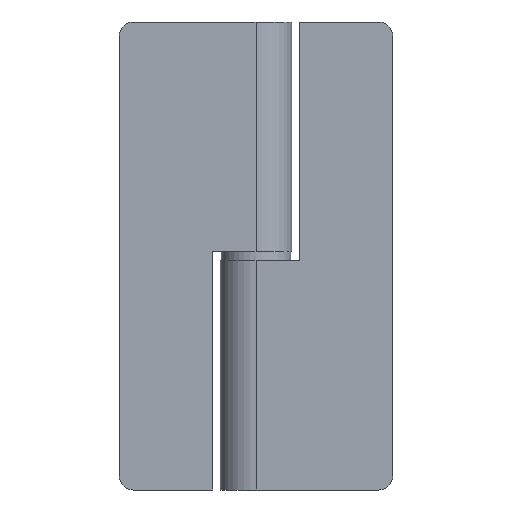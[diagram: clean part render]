
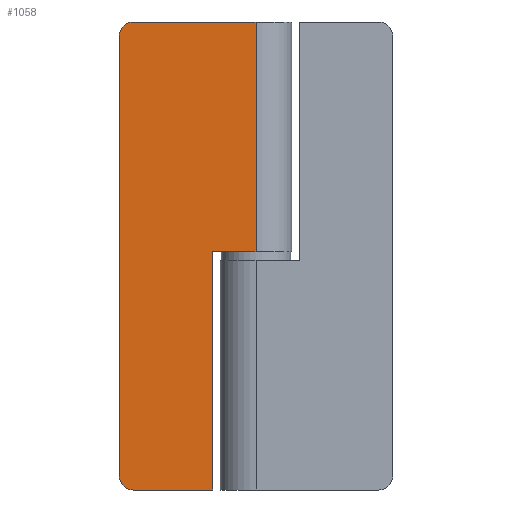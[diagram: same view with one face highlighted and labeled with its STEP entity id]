
A CAD part, front view. The second image highlights one B-rep face of the part: STEP entity #1058.
In plain terms, the highlighted planar face has unit normal (0, -1, 0).
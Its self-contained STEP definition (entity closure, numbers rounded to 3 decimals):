
#56 = CARTESIAN_POINT ( 'NONE',  ( -19., -5., -30.5 ) ) ;
#65 = VERTEX_POINT ( 'NONE', #347 ) ;
#107 = ORIENTED_EDGE ( 'NONE', *, *, #1022, .T. ) ;
#110 = VERTEX_POINT ( 'NONE', #857 ) ;
#120 = DIRECTION ( 'NONE',  ( 1., 0., 0. ) ) ;
#134 = CARTESIAN_POINT ( 'NONE',  ( -19., -5., 32.5 ) ) ;
#141 = CARTESIAN_POINT ( 'NONE',  ( -17., -5., 32.5 ) ) ;
#143 = DIRECTION ( 'NONE',  ( 0., 0., 1. ) ) ;
#146 = CARTESIAN_POINT ( 'NONE',  ( -17., -5., 30.5 ) ) ;
#148 = DIRECTION ( 'NONE',  ( 0., 1., 0. ) ) ;
#150 = DIRECTION ( 'NONE',  ( 0., 0., 1. ) ) ;
#152 = CARTESIAN_POINT ( 'NONE',  ( 0., -5., 32.5 ) ) ;
#156 = ORIENTED_EDGE ( 'NONE', *, *, #1031, .T. ) ;
#165 = CARTESIAN_POINT ( 'NONE',  ( 0., -5., 32.5 ) ) ;
#171 = PLANE ( 'NONE',  #1161 ) ;
#177 = ORIENTED_EDGE ( 'NONE', *, *, #1190, .F. ) ;
#200 = DIRECTION ( 'NONE',  ( -1., 0., 0. ) ) ;
#209 = CARTESIAN_POINT ( 'NONE',  ( -17., -5., -32.5 ) ) ;
#210 = ORIENTED_EDGE ( 'NONE', *, *, #1129, .F. ) ;
#212 = DIRECTION ( 'NONE',  ( 0., 0., 1. ) ) ;
#215 = CARTESIAN_POINT ( 'NONE',  ( -6., -5., -32.5 ) ) ;
#229 = DIRECTION ( 'NONE',  ( 1., 0., 0. ) ) ;
#233 = DIRECTION ( 'NONE',  ( 0., 1., 0. ) ) ;
#242 = ORIENTED_EDGE ( 'NONE', *, *, #1134, .F. ) ;
#260 = DIRECTION ( 'NONE',  ( 0., 1., 0. ) ) ;
#266 = CARTESIAN_POINT ( 'NONE',  ( 0., -5., -32.5 ) ) ;
#274 = CIRCLE ( 'NONE', #1132, 2. ) ;
#283 = VERTEX_POINT ( 'NONE', #209 ) ;
#289 = ORIENTED_EDGE ( 'NONE', *, *, #1107, .F. ) ;
#347 = CARTESIAN_POINT ( 'NONE',  ( 0., -5., 0.6 ) ) ;
#350 = ORIENTED_EDGE ( 'NONE', *, *, #999, .F. ) ;
#358 = CARTESIAN_POINT ( 'NONE',  ( -6., -5., -32.5 ) ) ;
#380 = DIRECTION ( 'NONE',  ( 0., 0., -1. ) ) ;
#382 = ORIENTED_EDGE ( 'NONE', *, *, #1021, .T. ) ;
#390 = DIRECTION ( 'NONE',  ( 0., 0., -1. ) ) ;
#410 = CARTESIAN_POINT ( 'NONE',  ( 0., -5., 32.5 ) ) ;
#414 = VECTOR ( 'NONE', #390, 1000. ) ;
#436 = LINE ( 'NONE', #134, #541 ) ;
#464 = LINE ( 'NONE', #266, #1329 ) ;
#470 = VECTOR ( 'NONE', #212, 1000. ) ;
#480 = CARTESIAN_POINT ( 'NONE',  ( 0., -5., 32.5 ) ) ;
#505 = VERTEX_POINT ( 'NONE', #56 ) ;
#531 = LINE ( 'NONE', #1013, #1323 ) ;
#541 = VECTOR ( 'NONE', #143, 1000. ) ;
#572 = DIRECTION ( 'NONE',  ( 1., 0., 0. ) ) ;
#579 = VERTEX_POINT ( 'NONE', #972 ) ;
#581 = VECTOR ( 'NONE', #120, 1000. ) ;
#600 = CIRCLE ( 'NONE', #1266, 2. ) ;
#857 = CARTESIAN_POINT ( 'NONE',  ( -19., -5., 30.5 ) ) ;
#922 = CARTESIAN_POINT ( 'NONE',  ( -17., -5., -30.5 ) ) ;
#972 = CARTESIAN_POINT ( 'NONE',  ( -6., -5., 0.6 ) ) ;
#999 = EDGE_CURVE ( 'NONE', #283, #505, #600, .T. ) ;
#1013 = CARTESIAN_POINT ( 'NONE',  ( 5., -5., 0.6 ) ) ;
#1021 = EDGE_CURVE ( 'NONE', #579, #65, #531, .T. ) ;
#1022 = EDGE_CURVE ( 'NONE', #283, #1218, #464, .T. ) ;
#1031 = EDGE_CURVE ( 'NONE', #1218, #579, #1311, .T. ) ;
#1058 = ADVANCED_FACE ( 'NONE', ( #1267 ), #171, .F. ) ;
#1107 = EDGE_CURVE ( 'NONE', #1135, #1201, #1212, .T. ) ;
#1129 = EDGE_CURVE ( 'NONE', #505, #110, #436, .T. ) ;
#1132 = AXIS2_PLACEMENT_3D ( 'NONE', #146, #148, #150 ) ;
#1134 = EDGE_CURVE ( 'NONE', #110, #1135, #274, .T. ) ;
#1135 = VERTEX_POINT ( 'NONE', #141 ) ;
#1161 = AXIS2_PLACEMENT_3D ( 'NONE', #165, #260, #200 ) ;
#1190 = EDGE_CURVE ( 'NONE', #1201, #65, #1289, .T. ) ;
#1201 = VERTEX_POINT ( 'NONE', #410 ) ;
#1212 = LINE ( 'NONE', #152, #581 ) ;
#1218 = VERTEX_POINT ( 'NONE', #358 ) ;
#1233 = EDGE_LOOP ( 'NONE', ( #242, #210, #350, #107, #156, #382, #177, #289 ) ) ;
#1266 = AXIS2_PLACEMENT_3D ( 'NONE', #922, #233, #380 ) ;
#1267 = FACE_OUTER_BOUND ( 'NONE', #1233, .T. ) ;
#1289 = LINE ( 'NONE', #480, #414 ) ;
#1311 = LINE ( 'NONE', #215, #470 ) ;
#1323 = VECTOR ( 'NONE', #572, 1000. ) ;
#1329 = VECTOR ( 'NONE', #229, 1000. ) ;
